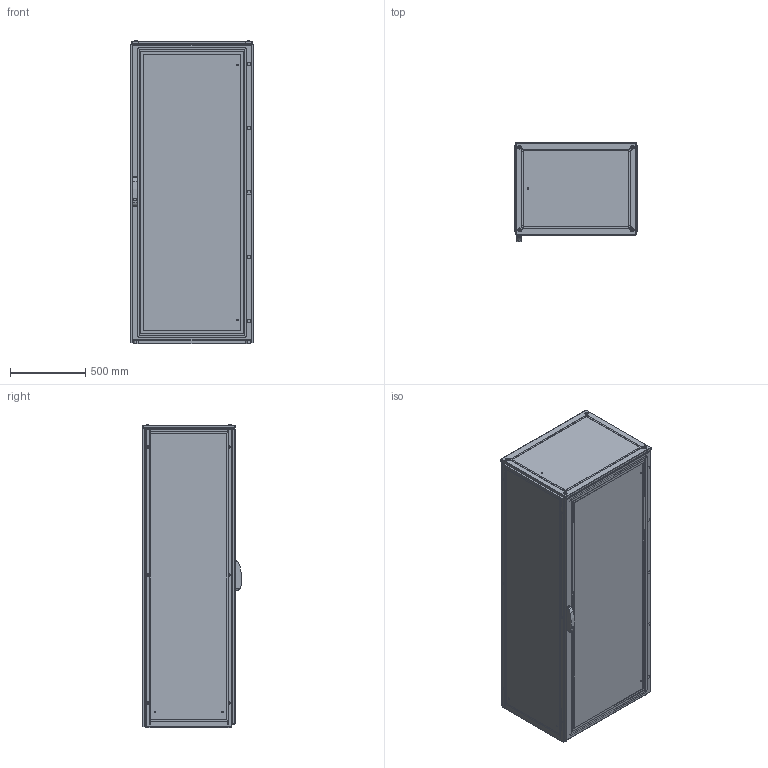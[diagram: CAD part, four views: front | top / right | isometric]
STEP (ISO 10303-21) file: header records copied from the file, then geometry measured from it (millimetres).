
FILE_DESCRIPTION(/* description */ ('STEP AP214'),/* implementation_level */ '2;1');
FILE_NAME(/* name */ 'ENUX082006PR-LOD350',/* time_stamp */ '2025-10-03T09:48:38+02:00',/* author */ ('License CC BY-ND 4.0'),/* organization */ ('CADENAS'),/* preprocessor_version */ 'ST-DEVELOPER v19.3',/* originating_system */ 'PARTsolutions',/* authorisation */ ' ');
FILE_SCHEMA (('AUTOMOTIVE_DESIGN {1 0 10303 214 3 1 1}'));
Length unit declared in the file: millimetre
Products named in the file (10): ENUX082006PR-LOD350; ENUX082006PR-LOD350_CON; ENUX082006PR-LOD350_floor1; ENUX082006PR-LOD350_floor2; Screw M12x30 architecture 350; ENUX082006PR-LOD350_side; ENUX082006PR-LOD350_top; ENUX082006PR-LOD350_back_door; ENUX082006PR-LOD350_door; ENUX082006PR-LOD350_handle
Assembly tree (16 placements, depth 2):
  ENUX082006PR-LOD350
    ENUX082006PR-LOD350_CON
    ENUX082006PR-LOD350_floor1  x2
    ENUX082006PR-LOD350_floor2  x3
    Screw M12x30 architecture 350  x4
    ENUX082006PR-LOD350_side  x2
    ENUX082006PR-LOD350_top
    ENUX082006PR-LOD350_back_door
    ENUX082006PR-LOD350_door
    ENUX082006PR-LOD350_handle
Bounding box: 812 x 657 x 2014.1 mm (x, y, z)
Volume: 22524171.3 mm3; surface area: 19181374.7 mm2
Topology: 16 solids, 16 shells, 1840 faces, 5179 edges, 3380 vertices
Faces by surface type: plane 912, cylinder 763, cone 77, torus 72, sphere 16
Full cylindrical faces by diameter (mm): 4.5 x144, 6 x14, 6.8 x8, 9 x9, 12 x16, 13 x4, 18 x1, 21 x4
Entity records: 48923 total; most frequent: DIRECTION 8473, CARTESIAN_POINT 8463, ORIENTED_EDGE 7944, EDGE_CURVE 3972, AXIS2_PLACEMENT_3D 3032, VERTEX_POINT 2781, LINE 2409, VECTOR 2409
